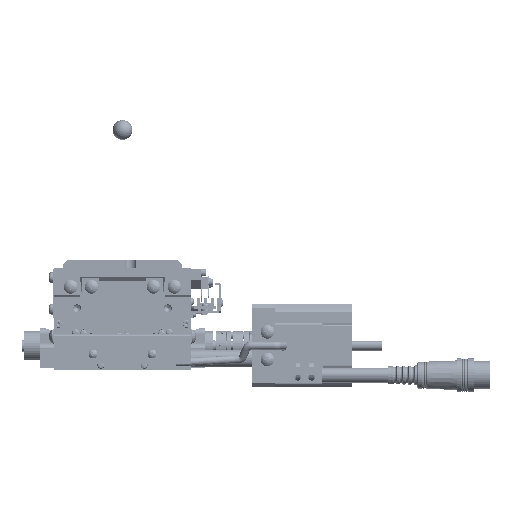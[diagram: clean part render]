
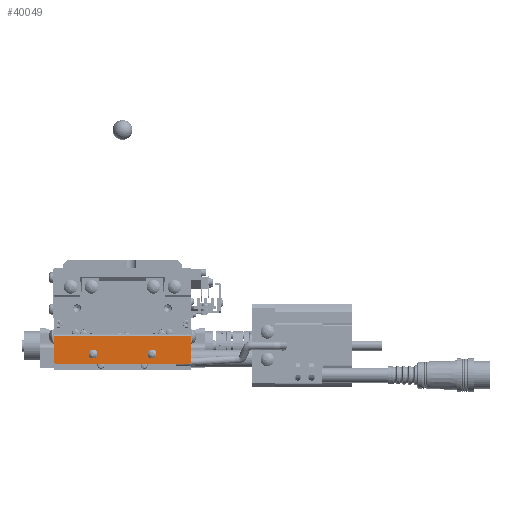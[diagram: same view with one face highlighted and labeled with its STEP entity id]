
A CAD part, front view. The second image highlights one B-rep face of the part: STEP entity #40049.
In plain terms, the highlighted planar face has unit normal (0, -1, 0).
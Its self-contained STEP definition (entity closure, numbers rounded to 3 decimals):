
#496 = DIRECTION ( 'NONE',  ( 0.707, 0., 0.707 ) ) ;
#1784 = DIRECTION ( 'NONE',  ( 0., -1., 0. ) ) ;
#3969 = ORIENTED_EDGE ( 'NONE', *, *, #33190, .F. ) ;
#4015 = LINE ( 'NONE', #47760, #49006 ) ;
#4376 = FACE_OUTER_BOUND ( 'NONE', #28146, .T. ) ;
#6745 = DIRECTION ( 'NONE',  ( 0., 0., -1. ) ) ;
#7402 = DIRECTION ( 'NONE',  ( -1., 0., 0. ) ) ;
#8477 = VERTEX_POINT ( 'NONE', #119812 ) ;
#9784 = ORIENTED_EDGE ( 'NONE', *, *, #159418, .T. ) ;
#10162 = EDGE_CURVE ( 'NONE', #108388, #140447, #22810, .T. ) ;
#11053 = CIRCLE ( 'NONE', #143200, 2.25 ) ;
#12440 = CIRCLE ( 'NONE', #155896, 2.25 ) ;
#13681 = ORIENTED_EDGE ( 'NONE', *, *, #77248, .T. ) ;
#15158 = DIRECTION ( 'NONE',  ( -1., 0., 0. ) ) ;
#16925 = ORIENTED_EDGE ( 'NONE', *, *, #29706, .T. ) ;
#18822 = LINE ( 'NONE', #64475, #128674 ) ;
#20889 = VERTEX_POINT ( 'NONE', #80882 ) ;
#22810 = LINE ( 'NONE', #97125, #87934 ) ;
#23850 = CARTESIAN_POINT ( 'NONE',  ( -108.682, -75., 268.328 ) ) ;
#28146 = EDGE_LOOP ( 'NONE', ( #35594, #9784, #134477, #16925, #94859, #13681 ) ) ;
#29706 = EDGE_CURVE ( 'NONE', #8477, #108388, #47613, .T. ) ;
#30316 = DIRECTION ( 'NONE',  ( 0., -1., 0. ) ) ;
#33190 = EDGE_CURVE ( 'NONE', #88389, #100093, #85703, .T. ) ;
#33701 = DIRECTION ( 'NONE',  ( -1., 0., 0. ) ) ;
#34507 = ORIENTED_EDGE ( 'NONE', *, *, #96718, .F. ) ;
#35594 = ORIENTED_EDGE ( 'NONE', *, *, #107283, .F. ) ;
#35813 = DIRECTION ( 'NONE',  ( 0., -1., 0. ) ) ;
#35901 = LINE ( 'NONE', #85688, #64553 ) ;
#36608 = CARTESIAN_POINT ( 'NONE',  ( -61.932, -75., 263.328 ) ) ;
#37448 = VERTEX_POINT ( 'NONE', #88906 ) ;
#40049 = ADVANCED_FACE ( 'NONE', ( #73695, #69605, #4376 ), #71672, .T. ) ;
#43363 = AXIS2_PLACEMENT_3D ( 'NONE', #87079, #35813, #7402 ) ;
#47145 = CARTESIAN_POINT ( 'NONE',  ( -130.932, -75., 278.328 ) ) ;
#47426 = VECTOR ( 'NONE', #496, 1000. ) ;
#47613 = LINE ( 'NONE', #111453, #165744 ) ;
#47760 = CARTESIAN_POINT ( 'NONE',  ( -60.932, -75., 278.328 ) ) ;
#49006 = VECTOR ( 'NONE', #87009, 1000. ) ;
#53680 = DIRECTION ( 'NONE',  ( -1., 0., 0. ) ) ;
#54799 = CARTESIAN_POINT ( 'NONE',  ( -80.932, -75., 268.328 ) ) ;
#55424 = CARTESIAN_POINT ( 'NONE',  ( -60.932, -75., 264.328 ) ) ;
#62290 = AXIS2_PLACEMENT_3D ( 'NONE', #47145, #111924, #6745 ) ;
#62933 = EDGE_CURVE ( 'NONE', #128960, #20889, #12440, .T. ) ;
#64475 = CARTESIAN_POINT ( 'NONE',  ( -130.932, -75., 278.328 ) ) ;
#64553 = VECTOR ( 'NONE', #137441, 1000. ) ;
#66606 = CARTESIAN_POINT ( 'NONE',  ( -88.932, -75., 236.328 ) ) ;
#69605 = FACE_BOUND ( 'NONE', #134050, .T. ) ;
#71041 = CARTESIAN_POINT ( 'NONE',  ( -78.682, -75., 268.328 ) ) ;
#71672 = PLANE ( 'NONE',  #62290 ) ;
#72250 = CARTESIAN_POINT ( 'NONE',  ( -129.932, -75., 263.328 ) ) ;
#73695 = FACE_BOUND ( 'NONE', #95041, .T. ) ;
#77248 = EDGE_CURVE ( 'NONE', #140447, #123810, #141185, .T. ) ;
#78602 = EDGE_CURVE ( 'NONE', #20889, #128960, #86004, .T. ) ;
#80882 = CARTESIAN_POINT ( 'NONE',  ( -83.182, -75., 268.328 ) ) ;
#82872 = DIRECTION ( 'NONE',  ( 0., -1., 0. ) ) ;
#85175 = ORIENTED_EDGE ( 'NONE', *, *, #62933, .F. ) ;
#85688 = CARTESIAN_POINT ( 'NONE',  ( -130.932, -75., 277.328 ) ) ;
#85703 = CIRCLE ( 'NONE', #97376, 2.25 ) ;
#86004 = CIRCLE ( 'NONE', #43363, 2.25 ) ;
#87009 = DIRECTION ( 'NONE',  ( 0., 0., -1. ) ) ;
#87079 = CARTESIAN_POINT ( 'NONE',  ( -80.932, -75., 268.328 ) ) ;
#87603 = DIRECTION ( 'NONE',  ( 0.707, 0., -0.707 ) ) ;
#87934 = VECTOR ( 'NONE', #110161, 1000. ) ;
#88389 = VERTEX_POINT ( 'NONE', #23850 ) ;
#88906 = CARTESIAN_POINT ( 'NONE',  ( -130.932, -75., 277.328 ) ) ;
#94218 = CARTESIAN_POINT ( 'NONE',  ( -110.932, -75., 268.328 ) ) ;
#94859 = ORIENTED_EDGE ( 'NONE', *, *, #10162, .T. ) ;
#95041 = EDGE_LOOP ( 'NONE', ( #34507, #3969 ) ) ;
#96718 = EDGE_CURVE ( 'NONE', #100093, #88389, #11053, .T. ) ;
#97125 = CARTESIAN_POINT ( 'NONE',  ( -130.932, -75., 263.328 ) ) ;
#97376 = AXIS2_PLACEMENT_3D ( 'NONE', #122469, #30316, #33701 ) ;
#100093 = VERTEX_POINT ( 'NONE', #108286 ) ;
#107283 = EDGE_CURVE ( 'NONE', #162214, #123810, #4015, .T. ) ;
#108286 = CARTESIAN_POINT ( 'NONE',  ( -113.182, -75., 268.328 ) ) ;
#108388 = VERTEX_POINT ( 'NONE', #72250 ) ;
#110161 = DIRECTION ( 'NONE',  ( 1., 0., 0. ) ) ;
#111453 = CARTESIAN_POINT ( 'NONE',  ( -137.932, -75., 271.328 ) ) ;
#111924 = DIRECTION ( 'NONE',  ( 0., -1., 0. ) ) ;
#119812 = CARTESIAN_POINT ( 'NONE',  ( -130.932, -75., 264.328 ) ) ;
#122247 = ORIENTED_EDGE ( 'NONE', *, *, #78602, .F. ) ;
#122469 = CARTESIAN_POINT ( 'NONE',  ( -110.932, -75., 268.328 ) ) ;
#123810 = VERTEX_POINT ( 'NONE', #55424 ) ;
#128674 = VECTOR ( 'NONE', #168015, 1000. ) ;
#128960 = VERTEX_POINT ( 'NONE', #71041 ) ;
#134050 = EDGE_LOOP ( 'NONE', ( #122247, #85175 ) ) ;
#134477 = ORIENTED_EDGE ( 'NONE', *, *, #157190, .T. ) ;
#135432 = CARTESIAN_POINT ( 'NONE',  ( -60.932, -75., 277.328 ) ) ;
#137441 = DIRECTION ( 'NONE',  ( -1., 0., 0. ) ) ;
#140447 = VERTEX_POINT ( 'NONE', #36608 ) ;
#141185 = LINE ( 'NONE', #66606, #47426 ) ;
#143200 = AXIS2_PLACEMENT_3D ( 'NONE', #94218, #82872, #15158 ) ;
#155896 = AXIS2_PLACEMENT_3D ( 'NONE', #54799, #1784, #53680 ) ;
#157190 = EDGE_CURVE ( 'NONE', #37448, #8477, #18822, .T. ) ;
#159418 = EDGE_CURVE ( 'NONE', #162214, #37448, #35901, .T. ) ;
#162214 = VERTEX_POINT ( 'NONE', #135432 ) ;
#165744 = VECTOR ( 'NONE', #87603, 1000. ) ;
#168015 = DIRECTION ( 'NONE',  ( 0., 0., -1. ) ) ;
